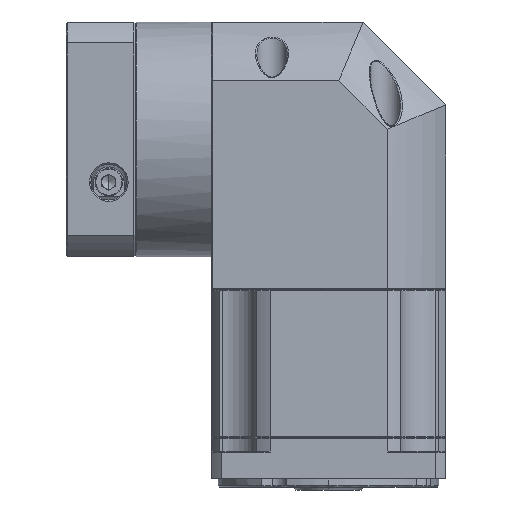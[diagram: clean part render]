
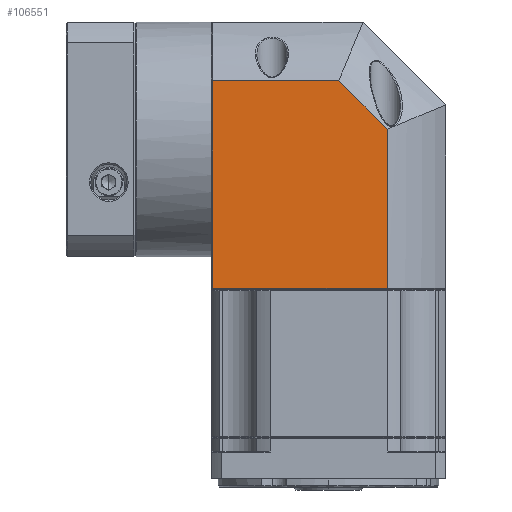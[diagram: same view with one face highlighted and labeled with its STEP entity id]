
A CAD part, left-side view. The second image highlights one B-rep face of the part: STEP entity #106551.
In plain terms, the highlighted planar face has unit normal (-1, 0, 0).
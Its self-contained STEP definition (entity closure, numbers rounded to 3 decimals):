
#7332 = EDGE_CURVE ( 'NONE', #85847, #40499, #69373, .T. ) ;
#8196 = LINE ( 'NONE', #55374, #114422 ) ;
#13399 = LINE ( 'NONE', #46118, #56896 ) ;
#16182 = DIRECTION ( 'NONE',  ( 0., 0., -1. ) ) ;
#17252 = VERTEX_POINT ( 'NONE', #122837 ) ;
#23689 = DIRECTION ( 'NONE',  ( 0., 0., 1. ) ) ;
#24999 = CARTESIAN_POINT ( 'NONE',  ( -85.93, 61.855, 49.899 ) ) ;
#26373 = EDGE_CURVE ( 'NONE', #28956, #103058, #78923, .T. ) ;
#28956 = VERTEX_POINT ( 'NONE', #52925 ) ;
#35464 = VECTOR ( 'NONE', #84597, 1000. ) ;
#36322 = CARTESIAN_POINT ( 'NONE',  ( -85.93, 62.355, 49.899 ) ) ;
#36767 = DIRECTION ( 'NONE',  ( 1., 0., 0. ) ) ;
#38920 = ORIENTED_EDGE ( 'NONE', *, *, #113947, .F. ) ;
#40499 = VERTEX_POINT ( 'NONE', #107130 ) ;
#45226 = VECTOR ( 'NONE', #126498, 1000. ) ;
#46118 = CARTESIAN_POINT ( 'NONE',  ( -85.93, 62.355, 28.612 ) ) ;
#52925 = CARTESIAN_POINT ( 'NONE',  ( -85.93, 16.173, 28.612 ) ) ;
#55374 = CARTESIAN_POINT ( 'NONE',  ( -85.93, -1.358, 53.399 ) ) ;
#56896 = VECTOR ( 'NONE', #67242, 1000. ) ;
#57038 = PLANE ( 'NONE',  #127264 ) ;
#57127 = EDGE_CURVE ( 'NONE', #17252, #28956, #13399, .T. ) ;
#62360 = ORIENTED_EDGE ( 'NONE', *, *, #57127, .F. ) ;
#63575 = CARTESIAN_POINT ( 'NONE',  ( -85.93, 16.173, 28.612 ) ) ;
#65820 = EDGE_CURVE ( 'NONE', #85847, #17252, #116694, .T. ) ;
#67038 = ORIENTED_EDGE ( 'NONE', *, *, #65820, .F. ) ;
#67242 = DIRECTION ( 'NONE',  ( 0., -1., 0. ) ) ;
#69373 = LINE ( 'NONE', #116198, #45226 ) ;
#76642 = ORIENTED_EDGE ( 'NONE', *, *, #26373, .F. ) ;
#78624 = FACE_OUTER_BOUND ( 'NONE', #125860, .T. ) ;
#78923 = LINE ( 'NONE', #63575, #35464 ) ;
#84597 = DIRECTION ( 'NONE',  ( 0., -0.707, -0.707 ) ) ;
#85847 = VERTEX_POINT ( 'NONE', #105846 ) ;
#95909 = CARTESIAN_POINT ( 'NONE',  ( -85.93, -1.358, 11.082 ) ) ;
#103058 = VERTEX_POINT ( 'NONE', #95909 ) ;
#105846 = CARTESIAN_POINT ( 'NONE',  ( -85.93, 61.855, -46.601 ) ) ;
#106551 = ADVANCED_FACE ( 'NONE', ( #78624 ), #57038, .F. ) ;
#107130 = CARTESIAN_POINT ( 'NONE',  ( -85.93, -1.358, -46.601 ) ) ;
#108727 = DIRECTION ( 'NONE',  ( 0., 1., 0. ) ) ;
#113947 = EDGE_CURVE ( 'NONE', #103058, #40499, #8196, .T. ) ;
#114422 = VECTOR ( 'NONE', #16182, 1000. ) ;
#115837 = ORIENTED_EDGE ( 'NONE', *, *, #7332, .T. ) ;
#116198 = CARTESIAN_POINT ( 'NONE',  ( -85.93, 62.355, -46.601 ) ) ;
#116694 = LINE ( 'NONE', #24999, #127877 ) ;
#122837 = CARTESIAN_POINT ( 'NONE',  ( -85.93, 61.855, 28.612 ) ) ;
#125860 = EDGE_LOOP ( 'NONE', ( #115837, #38920, #76642, #62360, #67038 ) ) ;
#126498 = DIRECTION ( 'NONE',  ( 0., -1., 0. ) ) ;
#127264 = AXIS2_PLACEMENT_3D ( 'NONE', #36322, #36767, #108727 ) ;
#127877 = VECTOR ( 'NONE', #23689, 1000. ) ;
